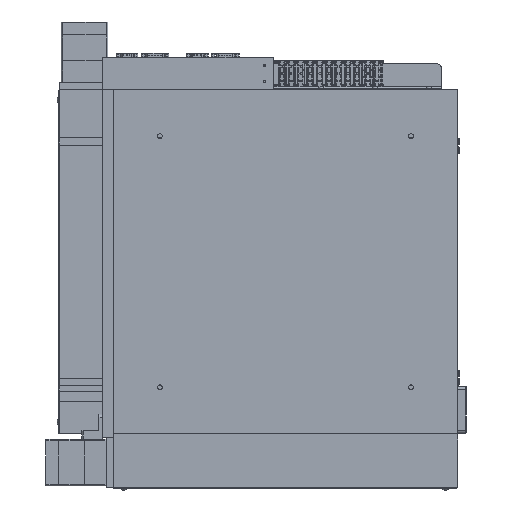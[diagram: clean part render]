
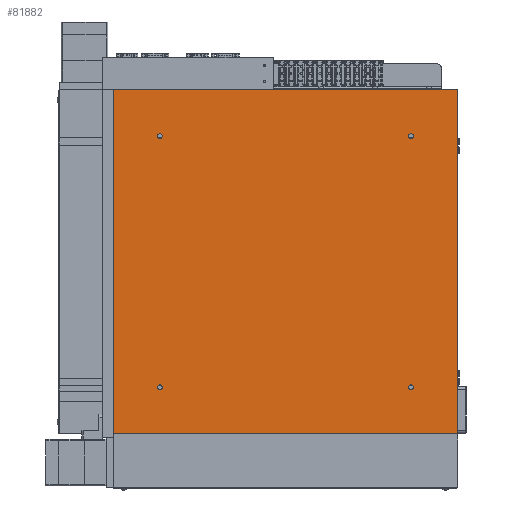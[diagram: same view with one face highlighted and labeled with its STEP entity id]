
A CAD part, front view. The second image highlights one B-rep face of the part: STEP entity #81882.
In plain terms, the highlighted planar face has unit normal (0, -1, 0).
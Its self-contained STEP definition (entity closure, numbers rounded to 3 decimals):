
#1168 = DIRECTION ( 'NONE',  ( 0., 0., 1. ) ) ;
#3066 = CARTESIAN_POINT ( 'NONE',  ( 0., 0., 0. ) ) ;
#4127 = DIRECTION ( 'NONE',  ( 0., 0., 1. ) ) ;
#4943 = ORIENTED_EDGE ( 'NONE', *, *, #36376, .T. ) ;
#6023 = CARTESIAN_POINT ( 'NONE',  ( 175., 0., -171.7 ) ) ;
#6726 = CARTESIAN_POINT ( 'NONE',  ( -240., 0., -240. ) ) ;
#9500 = ORIENTED_EDGE ( 'NONE', *, *, #33805, .T. ) ;
#9687 = VECTOR ( 'NONE', #47364, 1000. ) ;
#9764 = AXIS2_PLACEMENT_3D ( 'NONE', #94722, #20181, #63770 ) ;
#10030 = DIRECTION ( 'NONE',  ( 0., 0., 1. ) ) ;
#13013 = DIRECTION ( 'NONE',  ( 0., 0., 1. ) ) ;
#15459 = LINE ( 'NONE', #25316, #9687 ) ;
#15501 = CARTESIAN_POINT ( 'NONE',  ( -175., 0., -178.3 ) ) ;
#15619 = CIRCLE ( 'NONE', #74068, 3.3 ) ;
#16202 = EDGE_LOOP ( 'NONE', ( #28335, #26991 ) ) ;
#16477 = CARTESIAN_POINT ( 'NONE',  ( 175., 0., -178.3 ) ) ;
#16815 = VERTEX_POINT ( 'NONE', #60906 ) ;
#17292 = VECTOR ( 'NONE', #22491, 1000. ) ;
#17685 = AXIS2_PLACEMENT_3D ( 'NONE', #80195, #58710, #65206 ) ;
#19332 = CARTESIAN_POINT ( 'NONE',  ( -240., 0., -240. ) ) ;
#20181 = DIRECTION ( 'NONE',  ( 0., 1., 0. ) ) ;
#20843 = EDGE_CURVE ( 'NONE', #84959, #30215, #38237, .T. ) ;
#21110 = FACE_BOUND ( 'NONE', #85213, .T. ) ;
#22317 = CARTESIAN_POINT ( 'NONE',  ( 240., 0., 240. ) ) ;
#22491 = DIRECTION ( 'NONE',  ( -1., 0., 0. ) ) ;
#23703 = CARTESIAN_POINT ( 'NONE',  ( 175., 0., 178.3 ) ) ;
#25316 = CARTESIAN_POINT ( 'NONE',  ( 240., 0., -240. ) ) ;
#26991 = ORIENTED_EDGE ( 'NONE', *, *, #39376, .T. ) ;
#28335 = ORIENTED_EDGE ( 'NONE', *, *, #90008, .T. ) ;
#28613 = VERTEX_POINT ( 'NONE', #15501 ) ;
#28968 = DIRECTION ( 'NONE',  ( 0., 1., 0. ) ) ;
#29065 = CARTESIAN_POINT ( 'NONE',  ( -175., 0., 178.3 ) ) ;
#29250 = CIRCLE ( 'NONE', #9764, 3.3 ) ;
#30215 = VERTEX_POINT ( 'NONE', #16477 ) ;
#30278 = EDGE_CURVE ( 'NONE', #76355, #80520, #15459, .T. ) ;
#33432 = AXIS2_PLACEMENT_3D ( 'NONE', #47096, #84500, #84190 ) ;
#33805 = EDGE_CURVE ( 'NONE', #71846, #28613, #36435, .T. ) ;
#34840 = ORIENTED_EDGE ( 'NONE', *, *, #80767, .F. ) ;
#36376 = EDGE_CURVE ( 'NONE', #41077, #56222, #89491, .T. ) ;
#36435 = CIRCLE ( 'NONE', #72952, 3.3 ) ;
#38237 = CIRCLE ( 'NONE', #71131, 3.3 ) ;
#38262 = EDGE_LOOP ( 'NONE', ( #65597, #4943 ) ) ;
#39376 = EDGE_CURVE ( 'NONE', #16815, #44596, #70660, .T. ) ;
#41077 = VERTEX_POINT ( 'NONE', #90048 ) ;
#41645 = CARTESIAN_POINT ( 'NONE',  ( 175., 0., -175. ) ) ;
#42197 = CARTESIAN_POINT ( 'NONE',  ( -240., 0., 240. ) ) ;
#44078 = EDGE_LOOP ( 'NONE', ( #34840, #52339, #48867, #55881 ) ) ;
#44091 = AXIS2_PLACEMENT_3D ( 'NONE', #46447, #53641, #10030 ) ;
#44199 = EDGE_CURVE ( 'NONE', #80520, #68537, #74301, .T. ) ;
#44596 = VERTEX_POINT ( 'NONE', #23703 ) ;
#45233 = CARTESIAN_POINT ( 'NONE',  ( -240., 0., -240. ) ) ;
#46447 = CARTESIAN_POINT ( 'NONE',  ( -175., 0., -175. ) ) ;
#46689 = FACE_BOUND ( 'NONE', #16202, .T. ) ;
#47096 = CARTESIAN_POINT ( 'NONE',  ( -175., 0., 175. ) ) ;
#47364 = DIRECTION ( 'NONE',  ( 0., 0., -1. ) ) ;
#48772 = VERTEX_POINT ( 'NONE', #94457 ) ;
#48867 = ORIENTED_EDGE ( 'NONE', *, *, #30278, .F. ) ;
#49154 = CIRCLE ( 'NONE', #33432, 3.3 ) ;
#51346 = DIRECTION ( 'NONE',  ( 0., 1., 0. ) ) ;
#52120 = EDGE_CURVE ( 'NONE', #48772, #76355, #81024, .T. ) ;
#52339 = ORIENTED_EDGE ( 'NONE', *, *, #44199, .F. ) ;
#52889 = AXIS2_PLACEMENT_3D ( 'NONE', #81885, #51346, #80939 ) ;
#53641 = DIRECTION ( 'NONE',  ( 0., 1., 0. ) ) ;
#55023 = PLANE ( 'NONE',  #80678 ) ;
#55881 = ORIENTED_EDGE ( 'NONE', *, *, #52120, .F. ) ;
#56222 = VERTEX_POINT ( 'NONE', #29065 ) ;
#58710 = DIRECTION ( 'NONE',  ( 0., 1., 0. ) ) ;
#60906 = CARTESIAN_POINT ( 'NONE',  ( 175., 0., 171.7 ) ) ;
#61831 = CARTESIAN_POINT ( 'NONE',  ( 240., 0., -240. ) ) ;
#62236 = EDGE_CURVE ( 'NONE', #30215, #84959, #15619, .T. ) ;
#62467 = DIRECTION ( 'NONE',  ( 0., 0., 1. ) ) ;
#63770 = DIRECTION ( 'NONE',  ( 0., 0., 1. ) ) ;
#65206 = DIRECTION ( 'NONE',  ( 0., 0., 1. ) ) ;
#65597 = ORIENTED_EDGE ( 'NONE', *, *, #76060, .T. ) ;
#66364 = CIRCLE ( 'NONE', #44091, 3.3 ) ;
#67115 = EDGE_LOOP ( 'NONE', ( #9500, #76741 ) ) ;
#67391 = DIRECTION ( 'NONE',  ( 0., 1., 0. ) ) ;
#68537 = VERTEX_POINT ( 'NONE', #6726 ) ;
#70660 = CIRCLE ( 'NONE', #52889, 3.3 ) ;
#71131 = AXIS2_PLACEMENT_3D ( 'NONE', #41645, #94718, #13013 ) ;
#71222 = LINE ( 'NONE', #19332, #91084 ) ;
#71846 = VERTEX_POINT ( 'NONE', #74247 ) ;
#72952 = AXIS2_PLACEMENT_3D ( 'NONE', #88455, #28968, #74433 ) ;
#74068 = AXIS2_PLACEMENT_3D ( 'NONE', #82696, #67391, #1168 ) ;
#74247 = CARTESIAN_POINT ( 'NONE',  ( -175., 0., -171.7 ) ) ;
#74301 = LINE ( 'NONE', #45233, #17292 ) ;
#74433 = DIRECTION ( 'NONE',  ( 0., 0., 1. ) ) ;
#76060 = EDGE_CURVE ( 'NONE', #56222, #41077, #49154, .T. ) ;
#76355 = VERTEX_POINT ( 'NONE', #22317 ) ;
#76741 = ORIENTED_EDGE ( 'NONE', *, *, #77498, .T. ) ;
#77498 = EDGE_CURVE ( 'NONE', #28613, #71846, #66364, .T. ) ;
#78109 = FACE_BOUND ( 'NONE', #67115, .T. ) ;
#80195 = CARTESIAN_POINT ( 'NONE',  ( -175., 0., 175. ) ) ;
#80520 = VERTEX_POINT ( 'NONE', #61831 ) ;
#80678 = AXIS2_PLACEMENT_3D ( 'NONE', #3066, #92130, #62467 ) ;
#80767 = EDGE_CURVE ( 'NONE', #68537, #48772, #71222, .T. ) ;
#80939 = DIRECTION ( 'NONE',  ( 0., 0., 1. ) ) ;
#81024 = LINE ( 'NONE', #42197, #91539 ) ;
#81882 = ADVANCED_FACE ( 'NONE', ( #82789, #78109, #21110, #46689, #83927 ), #55023, .F. ) ;
#81885 = CARTESIAN_POINT ( 'NONE',  ( 175., 0., 175. ) ) ;
#82696 = CARTESIAN_POINT ( 'NONE',  ( 175., 0., -175. ) ) ;
#82789 = FACE_BOUND ( 'NONE', #38262, .T. ) ;
#83164 = ORIENTED_EDGE ( 'NONE', *, *, #62236, .T. ) ;
#83387 = ORIENTED_EDGE ( 'NONE', *, *, #20843, .T. ) ;
#83927 = FACE_OUTER_BOUND ( 'NONE', #44078, .T. ) ;
#84190 = DIRECTION ( 'NONE',  ( 0., 0., 1. ) ) ;
#84500 = DIRECTION ( 'NONE',  ( 0., 1., 0. ) ) ;
#84959 = VERTEX_POINT ( 'NONE', #6023 ) ;
#85213 = EDGE_LOOP ( 'NONE', ( #83387, #83164 ) ) ;
#88455 = CARTESIAN_POINT ( 'NONE',  ( -175., 0., -175. ) ) ;
#89491 = CIRCLE ( 'NONE', #17685, 3.3 ) ;
#90008 = EDGE_CURVE ( 'NONE', #44596, #16815, #29250, .T. ) ;
#90048 = CARTESIAN_POINT ( 'NONE',  ( -175., 0., 171.7 ) ) ;
#91084 = VECTOR ( 'NONE', #4127, 1000. ) ;
#91539 = VECTOR ( 'NONE', #94007, 1000. ) ;
#92130 = DIRECTION ( 'NONE',  ( 0., 1., 0. ) ) ;
#94007 = DIRECTION ( 'NONE',  ( 1., 0., 0. ) ) ;
#94457 = CARTESIAN_POINT ( 'NONE',  ( -240., 0., 240. ) ) ;
#94718 = DIRECTION ( 'NONE',  ( 0., 1., 0. ) ) ;
#94722 = CARTESIAN_POINT ( 'NONE',  ( 175., 0., 175. ) ) ;
